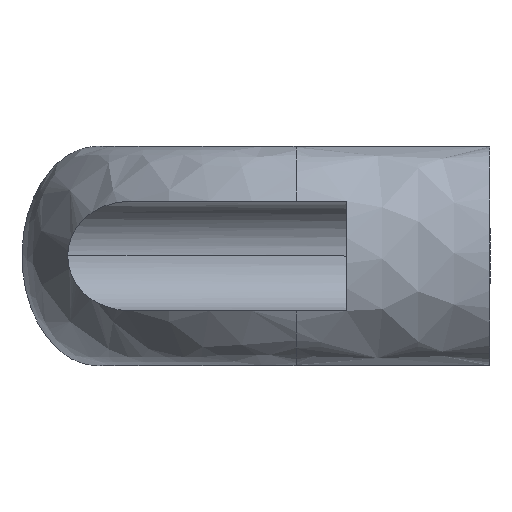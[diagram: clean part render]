
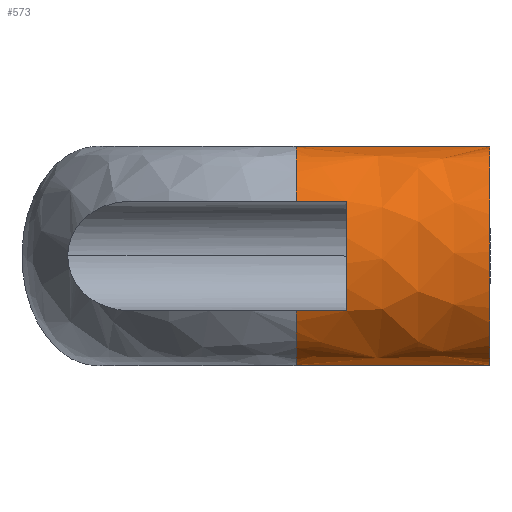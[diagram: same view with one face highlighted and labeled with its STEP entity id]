
A CAD part, left-side view. The second image highlights one B-rep face of the part: STEP entity #573.
In plain terms, the highlighted free-form (B-spline) face has degree [3, 1] with [4, 2] control points.
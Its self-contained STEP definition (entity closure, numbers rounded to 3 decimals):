
#45 = CARTESIAN_POINT ( 'NONE',  ( -81.794, 23., -6.5 ) ) ;
#64 = DIRECTION ( 'NONE',  ( 0., 1., 0. ) ) ;
#69 = CARTESIAN_POINT ( 'NONE',  ( -81.794, 23., -6.5 ) ) ;
#72 = VECTOR ( 'NONE', #64, 1000. ) ;
#74 = CARTESIAN_POINT ( 'NONE',  ( -80.147, 23., -10.621 ) ) ;
#76 = VERTEX_POINT ( 'NONE', #1035 ) ;
#85 = LINE ( 'NONE', #45, #72 ) ;
#121 = CARTESIAN_POINT ( 'NONE',  ( -74., 23., 13. ) ) ;
#129 =( BOUNDED_CURVE ( )  B_SPLINE_CURVE ( 3, ( #293, #288, #282, #276 ),
 .UNSPECIFIED., .F., .T. ) 
 B_SPLINE_CURVE_WITH_KNOTS ( ( 4, 4 ),
 ( 5.236, 6.283 ),
 .UNSPECIFIED. ) 
 CURVE ( )  GEOMETRIC_REPRESENTATION_ITEM ( )  RATIONAL_B_SPLINE_CURVE ( ( 1., 0.911, 0.911, 1. ) ) 
 REPRESENTATION_ITEM ( '' )  );
#131 = CARTESIAN_POINT ( 'NONE',  ( -81.794, 17., 6.5 ) ) ;
#133 = CARTESIAN_POINT ( 'NONE',  ( -83.441, 17., 2.379 ) ) ;
#136 = CARTESIAN_POINT ( 'NONE',  ( -77.294, 23., -13. ) ) ;
#151 = CARTESIAN_POINT ( 'NONE',  ( -81.794, 17., -6.5 ) ) ;
#156 = CARTESIAN_POINT ( 'NONE',  ( -83.441, 17., -2.379 ) ) ;
#165 = ORIENTED_EDGE ( 'NONE', *, *, #810, .T. ) ;
#184 = CARTESIAN_POINT ( 'NONE',  ( -74., 23., -13. ) ) ;
#187 = LINE ( 'NONE', #721, #867 ) ;
#248 =( BOUNDED_CURVE ( )  B_SPLINE_CURVE ( 3, ( #151, #156, #133, #131 ),
 .UNSPECIFIED., .F., .T. ) 
 B_SPLINE_CURVE_WITH_KNOTS ( ( 4, 4 ),
 ( 4.189, 5.236 ),
 .UNSPECIFIED. ) 
 CURVE ( )  GEOMETRIC_REPRESENTATION_ITEM ( )  RATIONAL_B_SPLINE_CURVE ( ( 1., 0.911, 0.911, 1. ) ) 
 REPRESENTATION_ITEM ( '' )  );
#250 = ORIENTED_EDGE ( 'NONE', *, *, #388, .T. ) ;
#256 = CARTESIAN_POINT ( 'NONE',  ( -92., 0., -13. ) ) ;
#276 = CARTESIAN_POINT ( 'NONE',  ( -74., 23., 13. ) ) ;
#282 = CARTESIAN_POINT ( 'NONE',  ( -77.294, 23., 13. ) ) ;
#288 = CARTESIAN_POINT ( 'NONE',  ( -80.147, 23., 10.621 ) ) ;
#293 = CARTESIAN_POINT ( 'NONE',  ( -81.794, 23., 6.5 ) ) ;
#315 = CARTESIAN_POINT ( 'NONE',  ( -74., 0., 13. ) ) ;
#319 =( BOUNDED_CURVE ( )  B_SPLINE_CURVE ( 3, ( #799, #256, #1116, #1105 ),
 .UNSPECIFIED., .F., .F. ) 
 B_SPLINE_CURVE_WITH_KNOTS ( ( 4, 4 ),
 ( 3.142, 6.283 ),
 .UNSPECIFIED. ) 
 CURVE ( )  GEOMETRIC_REPRESENTATION_ITEM ( )  RATIONAL_B_SPLINE_CURVE ( ( 1., 0.333, 0.333, 1. ) ) 
 REPRESENTATION_ITEM ( '' )  );
#322 = EDGE_CURVE ( 'NONE', #1050, #700, #187, .T. ) ;
#373 =( BOUNDED_CURVE ( )  B_SPLINE_CURVE ( 3, ( #184, #136, #74, #69 ),
 .UNSPECIFIED., .F., .F. ) 
 B_SPLINE_CURVE_WITH_KNOTS ( ( 4, 4 ),
 ( 3.142, 4.189 ),
 .UNSPECIFIED. ) 
 CURVE ( )  GEOMETRIC_REPRESENTATION_ITEM ( )  RATIONAL_B_SPLINE_CURVE ( ( 1., 0.911, 0.911, 1. ) ) 
 REPRESENTATION_ITEM ( '' )  );
#380 = LINE ( 'NONE', #558, #399 ) ;
#388 = EDGE_CURVE ( 'NONE', #850, #700, #319, .T. ) ;
#399 = VECTOR ( 'NONE', #505, 1000. ) ;
#405 = VERTEX_POINT ( 'NONE', #439 ) ;
#406 = VERTEX_POINT ( 'NONE', #838 ) ;
#439 = CARTESIAN_POINT ( 'NONE',  ( -81.794, 23., 6.5 ) ) ;
#465 = VECTOR ( 'NONE', #582, 1000. ) ;
#499 = CARTESIAN_POINT ( 'NONE',  ( -74., 0., -13. ) ) ;
#505 = DIRECTION ( 'NONE',  ( 0., -1., 0. ) ) ;
#528 = ORIENTED_EDGE ( 'NONE', *, *, #1059, .F. ) ;
#558 = CARTESIAN_POINT ( 'NONE',  ( -74., 23., -13. ) ) ;
#573 = ADVANCED_FACE ( 'NONE', ( #611 ), #844, .F. ) ;
#582 = DIRECTION ( 'NONE',  ( 0., -1., 0. ) ) ;
#585 = CARTESIAN_POINT ( 'NONE',  ( -81.794, 23., 6.5 ) ) ;
#611 = FACE_OUTER_BOUND ( 'NONE', #655, .T. ) ;
#639 = DIRECTION ( 'NONE',  ( 0., -1., 0. ) ) ;
#648 = CARTESIAN_POINT ( 'NONE',  ( -81.794, 17., -6.5 ) ) ;
#655 = EDGE_LOOP ( 'NONE', ( #528, #709, #250, #934, #1096, #165, #1114, #726 ) ) ;
#689 = VERTEX_POINT ( 'NONE', #963 ) ;
#700 = VERTEX_POINT ( 'NONE', #315 ) ;
#709 = ORIENTED_EDGE ( 'NONE', *, *, #845, .T. ) ;
#721 = CARTESIAN_POINT ( 'NONE',  ( -74., 23., 13. ) ) ;
#726 = ORIENTED_EDGE ( 'NONE', *, *, #1089, .T. ) ;
#799 = CARTESIAN_POINT ( 'NONE',  ( -74., 0., -13. ) ) ;
#810 = EDGE_CURVE ( 'NONE', #405, #689, #983, .T. ) ;
#825 = VERTEX_POINT ( 'NONE', #648 ) ;
#838 = CARTESIAN_POINT ( 'NONE',  ( -74., 23., -13. ) ) ;
#844 =( BOUNDED_SURFACE ( )  B_SPLINE_SURFACE ( 3, 1, ( 
 ( #920, #905 ),
 ( #911, #926 ),
 ( #933, #939 ),
 ( #940, #944 ) ),
 .UNSPECIFIED., .F., .F., .T. ) 
 B_SPLINE_SURFACE_WITH_KNOTS ( ( 4, 4 ),
 ( 2, 2 ),
 ( 0., 1. ),
 ( 0., 1. ),
 .UNSPECIFIED. ) 
 GEOMETRIC_REPRESENTATION_ITEM ( )  RATIONAL_B_SPLINE_SURFACE ( (
 ( 1., 1.),
 ( 0.333, 0.333),
 ( 0.333, 0.333),
 ( 1., 1.) ) ) 
 REPRESENTATION_ITEM ( '' )  SURFACE ( )  );
#845 = EDGE_CURVE ( 'NONE', #406, #850, #380, .T. ) ;
#850 = VERTEX_POINT ( 'NONE', #499 ) ;
#867 = VECTOR ( 'NONE', #639, 1000. ) ;
#905 = CARTESIAN_POINT ( 'NONE',  ( -74., 0., -13. ) ) ;
#911 = CARTESIAN_POINT ( 'NONE',  ( -92., 23., -13. ) ) ;
#920 = CARTESIAN_POINT ( 'NONE',  ( -74., 23., -13. ) ) ;
#926 = CARTESIAN_POINT ( 'NONE',  ( -92., 0., -13. ) ) ;
#933 = CARTESIAN_POINT ( 'NONE',  ( -92., 23., 13. ) ) ;
#934 = ORIENTED_EDGE ( 'NONE', *, *, #322, .F. ) ;
#939 = CARTESIAN_POINT ( 'NONE',  ( -92., 0., 13. ) ) ;
#940 = CARTESIAN_POINT ( 'NONE',  ( -74., 23., 13. ) ) ;
#944 = CARTESIAN_POINT ( 'NONE',  ( -74., 0., 13. ) ) ;
#963 = CARTESIAN_POINT ( 'NONE',  ( -81.794, 17., 6.5 ) ) ;
#983 = LINE ( 'NONE', #585, #465 ) ;
#992 = EDGE_CURVE ( 'NONE', #405, #1050, #129, .T. ) ;
#1035 = CARTESIAN_POINT ( 'NONE',  ( -81.794, 23., -6.5 ) ) ;
#1043 = EDGE_CURVE ( 'NONE', #825, #689, #248, .T. ) ;
#1050 = VERTEX_POINT ( 'NONE', #121 ) ;
#1059 = EDGE_CURVE ( 'NONE', #406, #76, #373, .T. ) ;
#1089 = EDGE_CURVE ( 'NONE', #825, #76, #85, .T. ) ;
#1096 = ORIENTED_EDGE ( 'NONE', *, *, #992, .F. ) ;
#1105 = CARTESIAN_POINT ( 'NONE',  ( -74., 0., 13. ) ) ;
#1114 = ORIENTED_EDGE ( 'NONE', *, *, #1043, .F. ) ;
#1116 = CARTESIAN_POINT ( 'NONE',  ( -92., 0., 13. ) ) ;
